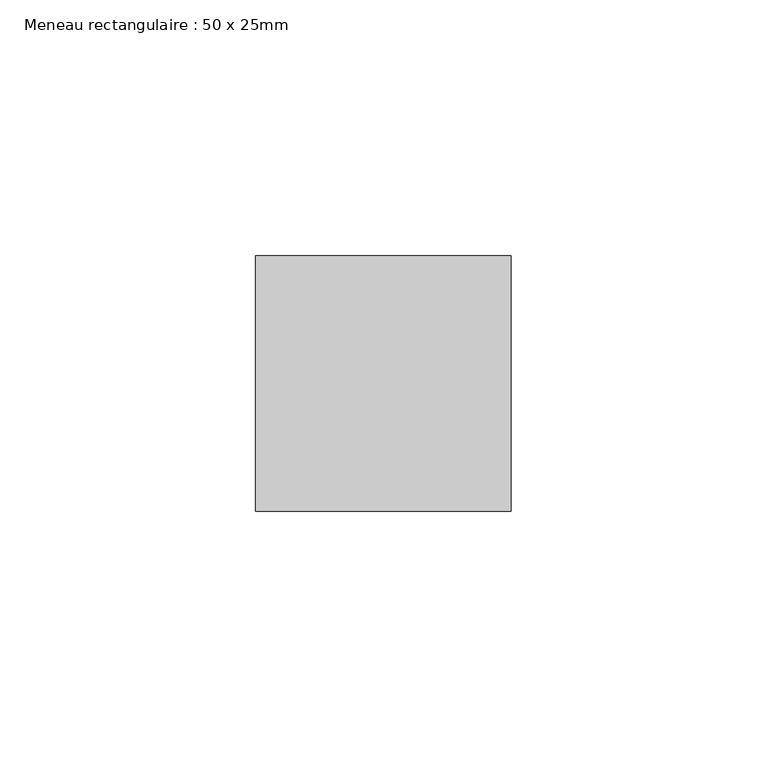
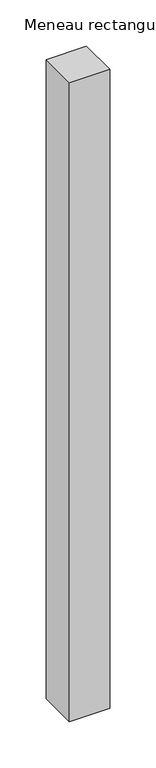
"""IFC4 building model written with IfcOpenShell, lengths in millimetres: member geometry, Meneau rectangulaire : 50 x 25mm."""

from ifc_helpers import new_model, si_unit, frame, origin, place, context, project, spatial, polyline, outline, extrude, source, transform, mapped, element, save


def meneau_rectangulaire_50_x_25mm_c60f0722(model_context):
    return source(origin(), model_context, "Body", "SweptSolid", [
        extrude(outline(polyline([(25.0, 0.0), (25.0, -50.0), (-25.0, -50.0), (-25.0, 0.0), (25.0, 0.0)])), frame((0.0, 0.0, -843.0), z_axis=(0.0, 0.0, 1.0), x_axis=(1.0, 0.0, 0.0)), (0.0, 0.0, 1.0), 843.0),
    ])


if __name__ == "__main__":
    model = new_model("IFC4")
    model_context = context("Model", 3, world=origin())
    ifc_project = project(units=[si_unit("LENGTHUNIT", "METRE", prefix="MILLI")], contexts=[model_context])
    site = spatial("IfcSite", under=ifc_project)
    building = spatial("IfcBuilding", under=site)
    placement = place(None, origin())
    meneau_rectangulaire_50_x_25mm_shape = meneau_rectangulaire_50_x_25mm_c60f0722(model_context)
    element("IfcMember", 1, ObjectType="Meneau rectangulaire : 50 x 25mm", at=placement, inside=building, context=model_context, shape_type="MappedRepresentation", body=[
        mapped(meneau_rectangulaire_50_x_25mm_shape, transform((0.0, 0.0, 0.0), x_axis=(1.0, 0.0, 0.0), y_axis=(0.0, 1.0, 0.0), z_axis=(0.0, 0.0, 1.0))),
    ])
    save(model, "model.ifc")
